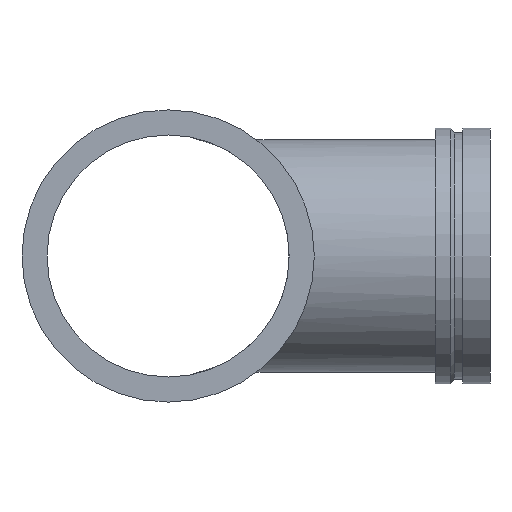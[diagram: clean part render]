
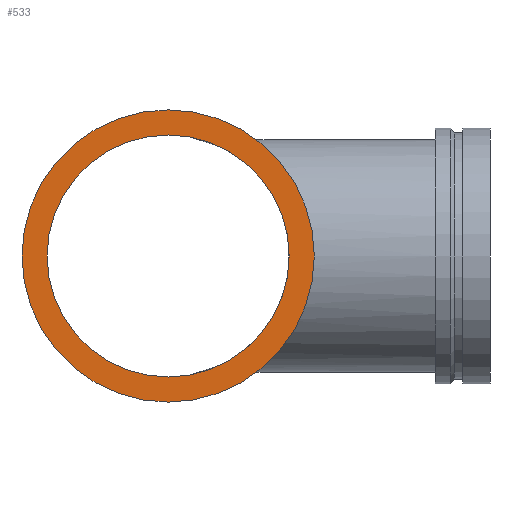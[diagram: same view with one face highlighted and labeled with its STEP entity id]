
A CAD part, left-side view. The second image highlights one B-rep face of the part: STEP entity #533.
In plain terms, the highlighted planar face has unit normal (-1, 0, 0).
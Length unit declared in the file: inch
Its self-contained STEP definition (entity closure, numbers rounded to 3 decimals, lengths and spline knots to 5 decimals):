
#58=FACE_BOUND('',#128,.T.);
#67=PLANE('',#626);
#92=FACE_OUTER_BOUND('',#127,.T.);
#127=EDGE_LOOP('',(#465,#466));
#128=EDGE_LOOP('',(#467,#468));
#151=CIRCLE('',#587,8.);
#152=CIRCLE('',#588,8.);
#175=CIRCLE('',#624,6.625);
#176=CIRCLE('',#625,6.625);
#239=VERTEX_POINT('',#1105);
#240=VERTEX_POINT('',#1107);
#263=VERTEX_POINT('',#1174);
#264=VERTEX_POINT('',#1176);
#299=EDGE_CURVE('',#239,#240,#151,.T.);
#300=EDGE_CURVE('',#240,#239,#152,.T.);
#331=EDGE_CURVE('',#264,#263,#175,.T.);
#332=EDGE_CURVE('',#263,#264,#176,.T.);
#465=ORIENTED_EDGE('',*,*,#300,.F.);
#466=ORIENTED_EDGE('',*,*,#299,.F.);
#467=ORIENTED_EDGE('',*,*,#331,.T.);
#468=ORIENTED_EDGE('',*,*,#332,.T.);
#533=ADVANCED_FACE('',(#92,#58),#67,.T.);
#587=AXIS2_PLACEMENT_3D('',#1108,#716,#717);
#588=AXIS2_PLACEMENT_3D('',#1109,#718,#719);
#624=AXIS2_PLACEMENT_3D('',#1177,#798,#799);
#625=AXIS2_PLACEMENT_3D('',#1178,#800,#801);
#626=AXIS2_PLACEMENT_3D('',#1179,#802,#803);
#716=DIRECTION('center_axis',(1.,0.,0.));
#717=DIRECTION('ref_axis',(0.,0.,1.));
#718=DIRECTION('center_axis',(1.,0.,0.));
#719=DIRECTION('ref_axis',(0.,0.,1.));
#798=DIRECTION('center_axis',(1.,0.,0.));
#799=DIRECTION('ref_axis',(0.,0.,1.));
#800=DIRECTION('center_axis',(1.,0.,0.));
#801=DIRECTION('ref_axis',(0.,0.,1.));
#802=DIRECTION('center_axis',(-1.,0.,0.));
#803=DIRECTION('ref_axis',(0.,0.,-1.));
#1105=CARTESIAN_POINT('',(-16.,8.,0.));
#1107=CARTESIAN_POINT('',(-16.,-8.,0.));
#1108=CARTESIAN_POINT('Origin',(-16.,0.,0.));
#1109=CARTESIAN_POINT('Origin',(-16.,0.,0.));
#1174=CARTESIAN_POINT('',(-16.,6.625,0.));
#1176=CARTESIAN_POINT('',(-16.,-6.625,0.));
#1177=CARTESIAN_POINT('Origin',(-16.,0.,0.));
#1178=CARTESIAN_POINT('Origin',(-16.,0.,0.));
#1179=CARTESIAN_POINT('Origin',(-16.,-8.,0.));
